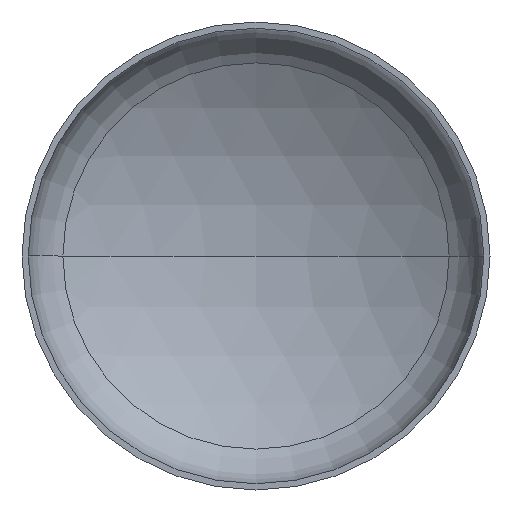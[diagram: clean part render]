
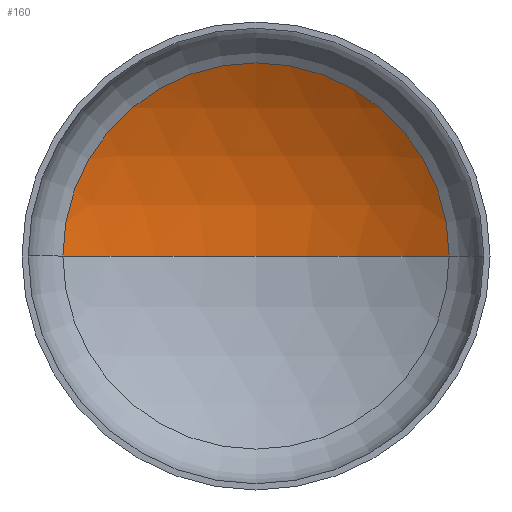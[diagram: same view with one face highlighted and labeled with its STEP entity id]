
A CAD part, front view. The second image highlights one B-rep face of the part: STEP entity #160.
In plain terms, the highlighted spherical face has radius 1440 mm.
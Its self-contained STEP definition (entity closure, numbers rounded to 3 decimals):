
#10 = EDGE_LOOP ( 'NONE', ( #200, #79, #36 ) ) ;
#13 = AXIS2_PLACEMENT_3D ( 'NONE', #52, #49, #43 ) ;
#20 = VERTEX_POINT ( 'NONE', #280 ) ;
#36 = ORIENTED_EDGE ( 'NONE', *, *, #217, .T. ) ;
#43 = DIRECTION ( 'NONE',  ( 1., 0., 0. ) ) ;
#49 = DIRECTION ( 'NONE',  ( 0., -1., 0. ) ) ;
#52 = CARTESIAN_POINT ( 'NONE',  ( 0., 310.582, 0. ) ) ;
#69 = VERTEX_POINT ( 'NONE', #332 ) ;
#79 = ORIENTED_EDGE ( 'NONE', *, *, #83, .T. ) ;
#83 = EDGE_CURVE ( 'NONE', #69, #118, #330, .T. ) ;
#118 = VERTEX_POINT ( 'NONE', #322 ) ;
#128 = DIRECTION ( 'NONE',  ( -1., 0., 0. ) ) ;
#145 = EDGE_CURVE ( 'NONE', #69, #20, #248, .T. ) ;
#160 = ADVANCED_FACE ( 'NONE', ( #379 ), #239, .F. ) ;
#178 = DIRECTION ( 'NONE',  ( 0., 0., 1. ) ) ;
#179 = DIRECTION ( 'NONE',  ( 1., 0., 0. ) ) ;
#180 = DIRECTION ( 'NONE',  ( 0., 0., -1. ) ) ;
#194 = CARTESIAN_POINT ( 'NONE',  ( 0., -923.01, 0. ) ) ;
#200 = ORIENTED_EDGE ( 'NONE', *, *, #145, .F. ) ;
#217 = EDGE_CURVE ( 'NONE', #118, #20, #364, .T. ) ;
#239 = SPHERICAL_SURFACE ( 'NONE', #386, 1440. ) ;
#245 = AXIS2_PLACEMENT_3D ( 'NONE', #360, #359, #357 ) ;
#248 = CIRCLE ( 'NONE', #333, 1440. ) ;
#280 = CARTESIAN_POINT ( 'NONE',  ( -742.867, 310.582, 0. ) ) ;
#322 = CARTESIAN_POINT ( 'NONE',  ( 742.867, 310.582, 0. ) ) ;
#330 = CIRCLE ( 'NONE', #245, 1440. ) ;
#332 = CARTESIAN_POINT ( 'NONE',  ( 0., 516.99, 0. ) ) ;
#333 = AXIS2_PLACEMENT_3D ( 'NONE', #194, #178, #179 ) ;
#352 = CARTESIAN_POINT ( 'NONE',  ( 0., -923.01, 0. ) ) ;
#357 = DIRECTION ( 'NONE',  ( -1., 0., 0. ) ) ;
#359 = DIRECTION ( 'NONE',  ( 0., 0., -1. ) ) ;
#360 = CARTESIAN_POINT ( 'NONE',  ( 0., -923.01, 0. ) ) ;
#364 = CIRCLE ( 'NONE', #13, 742.867 ) ;
#379 = FACE_OUTER_BOUND ( 'NONE', #10, .T. ) ;
#386 = AXIS2_PLACEMENT_3D ( 'NONE', #352, #180, #128 ) ;
